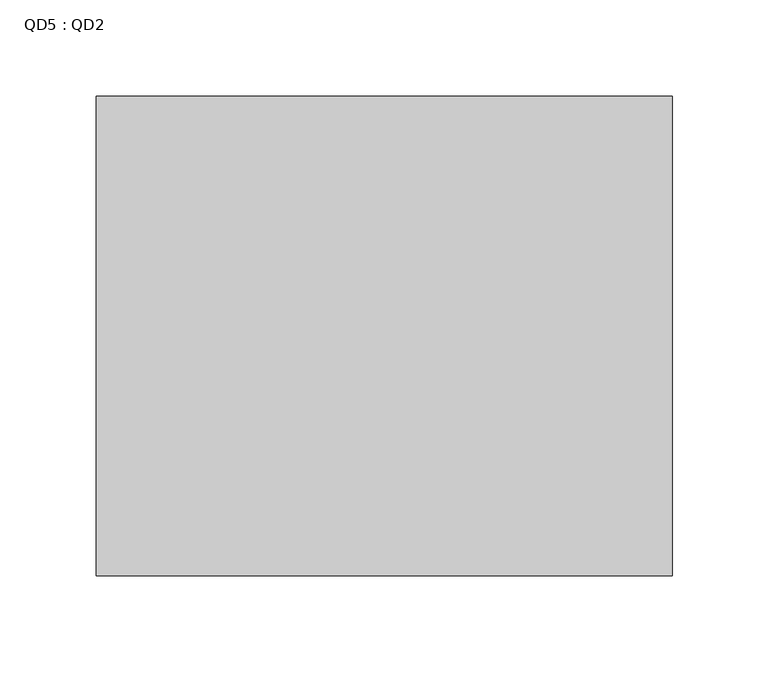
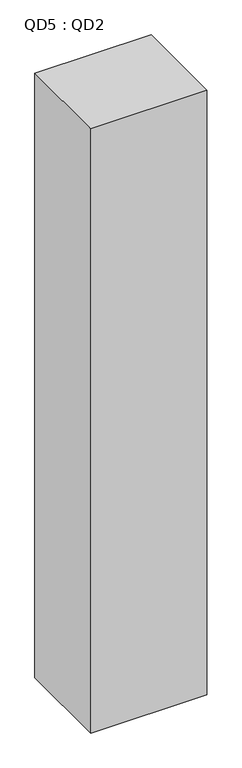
"""IFC4 building model written with IfcOpenShell, lengths in millimetres: proxy geometry, QD5 : QD2."""

from ifc_helpers import new_model, si_unit, frame, origin, place, context, project, spatial, polyline, outline, extrude, source, transform, mapped, element, save


def qd5_qd2_821c3556(model_context):
    return source(origin(), model_context, "Body", "SweptSolid", [
        extrude(outline(polyline([(22457.3746511, 4466.0121745), (22457.3746511, 4716.0121745), (22757.3746511, 4716.0121745), (22757.3746511, 4466.0121745), (22457.3746511, 4466.0121745)])), frame((0.0, 0.0, 1200.0), z_axis=(0.0, 0.0, 1.0), x_axis=(1.0, 0.0, 0.0)), (0.0, 0.0, 1.0), 1650.0),
    ])


if __name__ == "__main__":
    model = new_model("IFC4")
    model_context = context("Model", 3, world=origin())
    ifc_project = project(units=[si_unit("LENGTHUNIT", "METRE", prefix="MILLI")], contexts=[model_context])
    site = spatial("IfcSite", under=ifc_project)
    building = spatial("IfcBuilding", under=site)
    placement = place(None, origin())
    qd5_qd2_shape = qd5_qd2_821c3556(model_context)
    element("IfcBuildingElementProxy", 1, Name="QD5 : QD2", ObjectType="QD5 : QD2", at=placement, inside=building, context=model_context, shape_type="MappedRepresentation", body=[
        mapped(qd5_qd2_shape, transform((0.0, 0.0, 0.0), x_axis=(1.0, 0.0, 0.0), y_axis=(0.0, 1.0, 0.0), z_axis=(0.0, 0.0, 1.0))),
    ])
    save(model, "model.ifc")
